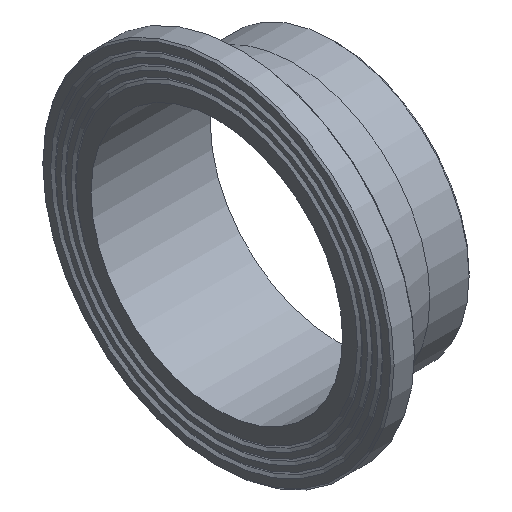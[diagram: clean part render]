
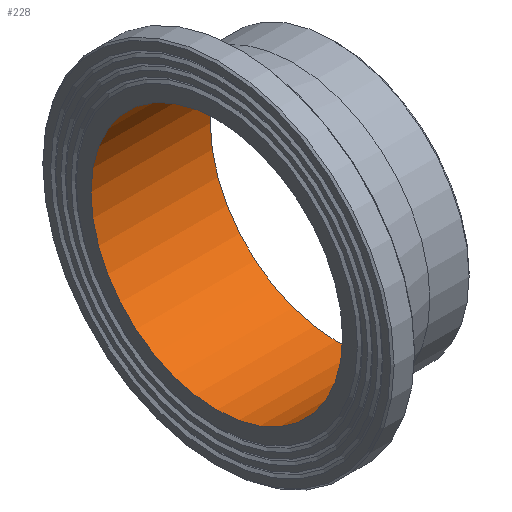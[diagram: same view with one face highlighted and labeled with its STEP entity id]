
A CAD part, isometric view. The second image highlights one B-rep face of the part: STEP entity #228.
In plain terms, the highlighted cylindrical face has radius 73.8 mm (diameter 147.6 mm), a full revolution.
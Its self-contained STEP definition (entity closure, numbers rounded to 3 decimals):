
#33=CYLINDRICAL_SURFACE('',#274,73.8);
#50=ORIENTED_EDGE('',*,*,#79,.F.);
#51=ORIENTED_EDGE('',*,*,#76,.T.);
#76=EDGE_CURVE('',#96,#96,#116,.T.);
#79=EDGE_CURVE('',#99,#99,#119,.T.);
#96=VERTEX_POINT('',#383);
#99=VERTEX_POINT('',#390);
#116=CIRCLE('',#257,73.8);
#119=CIRCLE('',#261,73.8);
#150=EDGE_LOOP('',(#50));
#151=EDGE_LOOP('',(#51));
#190=FACE_BOUND('',#150,.T.);
#191=FACE_BOUND('',#151,.T.);
#228=ADVANCED_FACE('',(#190,#191),#33,.F.);
#257=AXIS2_PLACEMENT_3D('',#382,#303,#304);
#261=AXIS2_PLACEMENT_3D('',#389,#311,#312);
#274=AXIS2_PLACEMENT_3D('',#410,#337,#338);
#303=DIRECTION('',(-1.,0.,0.));
#304=DIRECTION('',(0.,0.,1.));
#311=DIRECTION('',(-1.,0.,0.));
#312=DIRECTION('',(0.,0.,1.));
#337=DIRECTION('',(-1.,0.,0.));
#338=DIRECTION('',(0.,0.,1.));
#382=CARTESIAN_POINT('',(0.,0.,0.));
#383=CARTESIAN_POINT('',(0.,0.,73.8));
#389=CARTESIAN_POINT('',(70.,0.,0.));
#390=CARTESIAN_POINT('',(70.,0.,73.8));
#410=CARTESIAN_POINT('',(60.,0.,0.));
